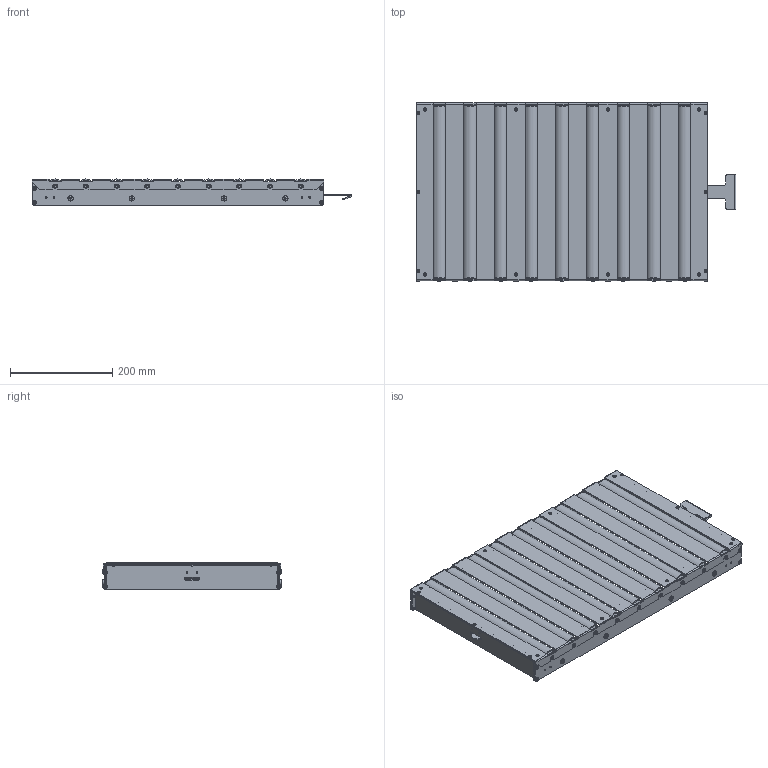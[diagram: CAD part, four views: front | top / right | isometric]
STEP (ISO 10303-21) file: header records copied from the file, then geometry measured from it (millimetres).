
FILE_DESCRIPTION(/* description */ (''),/* implementation_level */ '2;1');
FILE_NAME(/* name */ 'Z:\01-DesignData\★媒体用(Web\X2\FF0F30AB30BF30ED30B0\X0\)CADデータ\HIP-LB-3557\HIP-LB-3557.stp',/* time_stamp */ '2019-07-22T13:29:17+09:00',/* author */ ('m-susga'),/* organization */ (''),/* preprocessor_version */ 'ST-DEVELOPER v16.5',/* originating_system */ 'Autodesk Inventor 2017',/* authorisation */ '');
FILE_SCHEMA (('AUTOMOTIVE_DESIGN { 1 0 10303 214 3 1 1 }'));
Length unit declared in the file: millimetre
Products named in the file (19): 組立図-Ⅴ; ローラー-Assy-Ⅲ; ASTP-30-335L(SP \X2\30B930DA30B730E330EB30D530EC30FC30E0
3001\X0\NIC); SRU-525(SUS303\X2\7CBE5BC630B730E330D530C830015EE36749
8A085668\X0\); D5060-0550(ジュラコン \X2\30D630C330B730E530015EE36749
8A085668\X0\); シャーシ-Ⅱ; カバー-Ⅱ; ロックレバー-Assy; ロックレバー; AMB-04(中間ブラケット、NIC); HCB30408; M4x6(CSB); M5x10(十字穴付バインド); 1; M4x6(十字穴付バインド); M3x6(十字サラ、SUS)_MIR; M4x6(十字穴付バインド)_MIR; 型式銘板; FRシャーシ
Assembly tree (56 placements, depth 3):
  組立図-Ⅴ
    シャーシ-Ⅱ  x2
    ローラー-Assy-Ⅲ  x9
      ASTP-30-335L(SP \X2\30B930DA30B730E330EB30D530EC30FC30E0
3001\X0\NIC)
      SRU-525(SUS303\X2\7CBE5BC630B730E330D530C830015EE36749
8A085668\X0\)
      D5060-0550(ジュラコン \X2\30D630C330B730E530015EE36749
8A085668\X0\)
    カバー-Ⅱ
    ロックレバー-Assy
      ロックレバー
    AMB-04(中間ブラケット、NIC)
    HCB30408
    M4x6(CSB)  x2
    M5x10(十字穴付バインド)  x8
    1  x11
    M4x6(十字穴付バインド)  x4
    M3x6(十字サラ、SUS)_MIR  x3
    M4x6(十字穴付バインド)_MIR  x4
    型式銘板
    FRシャーシ  x2
Bounding box: 625.15 x 350.05 x 51 mm (x, y, z)
Volume: 1413495.5 mm3; surface area: 1364564.1 mm2
Topology: 86 solids, 86 shells, 2006 faces, 5271 edges, 3494 vertices
Faces by surface type: plane 1121, cylinder 660, cone 146, bspline 33, torus 30, sphere 16
Full cylindrical faces by diameter (mm): 2.459 x14, 2.693 x14, 3 x14, 3.242 x21, 3.4 x18, 3.571 x8, 4 x25, 4.5 x2, 4.51 x8, 5 x61, 5.5 x8, 6 x32, 6.1 x18, 7 x3, 10 x18
Entity records: 24004 total; most frequent: CARTESIAN_POINT 4430, DIRECTION 3818, ORIENTED_EDGE 3780, EDGE_CURVE 1890, LINE 1346, VECTOR 1346, VERTEX_POINT 1332, AXIS2_PLACEMENT_3D 1236
